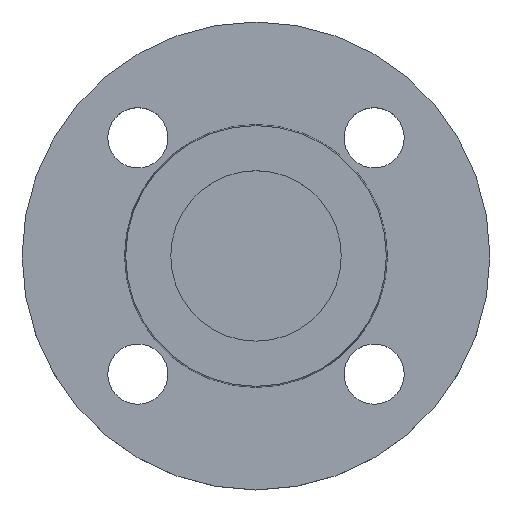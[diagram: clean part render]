
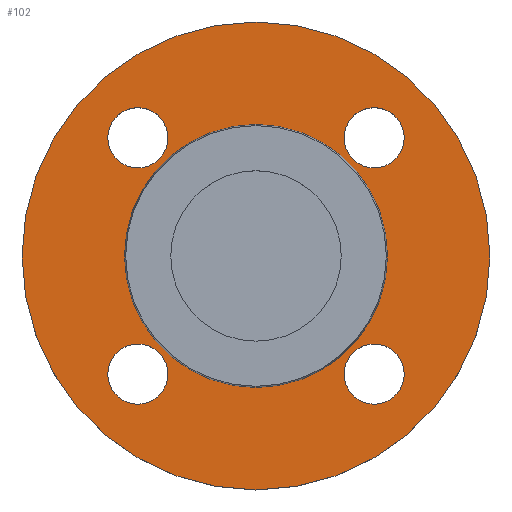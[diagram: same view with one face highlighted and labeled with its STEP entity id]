
A CAD part, top view. The second image highlights one B-rep face of the part: STEP entity #102.
In plain terms, the highlighted planar face has unit normal (0, 0, 1).
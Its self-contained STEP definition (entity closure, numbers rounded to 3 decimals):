
#4 = ORIENTED_EDGE ( 'NONE', *, *, #552, .F. ) ;
#7 = VERTEX_POINT ( 'NONE', #746 ) ;
#10 = CARTESIAN_POINT ( 'NONE',  ( 0., 0., -2. ) ) ;
#12 = ORIENTED_EDGE ( 'NONE', *, *, #420, .T. ) ;
#27 = ORIENTED_EDGE ( 'NONE', *, *, #700, .F. ) ;
#28 = DIRECTION ( 'NONE',  ( 0., 0., -1. ) ) ;
#29 = DIRECTION ( 'NONE',  ( 1., 0., 0. ) ) ;
#40 = ORIENTED_EDGE ( 'NONE', *, *, #299, .T. ) ;
#42 = DIRECTION ( 'NONE',  ( 1., 0., 0. ) ) ;
#47 = CIRCLE ( 'NONE', #456, 9. ) ;
#53 = EDGE_LOOP ( 'NONE', ( #4, #27 ) ) ;
#56 = DIRECTION ( 'NONE',  ( 0., 0., -1. ) ) ;
#66 = EDGE_CURVE ( 'NONE', #603, #597, #575, .T. ) ;
#71 = CIRCLE ( 'NONE', #545, 9. ) ;
#72 = VERTEX_POINT ( 'NONE', #384 ) ;
#73 = AXIS2_PLACEMENT_3D ( 'NONE', #723, #151, #409 ) ;
#75 = CIRCLE ( 'NONE', #521, 70. ) ;
#76 = AXIS2_PLACEMENT_3D ( 'NONE', #608, #28, #290 ) ;
#82 = DIRECTION ( 'NONE',  ( -1., 0., 0. ) ) ;
#86 = ORIENTED_EDGE ( 'NONE', *, *, #224, .T. ) ;
#96 = CARTESIAN_POINT ( 'NONE',  ( -39.353, 0., -2. ) ) ;
#102 = ADVANCED_FACE ( 'NONE', ( #188, #490, #744, #167, #428, #681 ), #108, .T. ) ;
#107 = AXIS2_PLACEMENT_3D ( 'NONE', #365, #621, #42 ) ;
#108 = PLANE ( 'NONE',  #107 ) ;
#143 = ORIENTED_EDGE ( 'NONE', *, *, #819, .T. ) ;
#144 = AXIS2_PLACEMENT_3D ( 'NONE', #502, #761, #185 ) ;
#151 = DIRECTION ( 'NONE',  ( 0., 0., -1. ) ) ;
#165 = DIRECTION ( 'NONE',  ( -1., 0., 0. ) ) ;
#167 = FACE_BOUND ( 'NONE', #352, .T. ) ;
#175 = DIRECTION ( 'NONE',  ( 0., 0., -1. ) ) ;
#180 = ORIENTED_EDGE ( 'NONE', *, *, #641, .T. ) ;
#184 = CIRCLE ( 'NONE', #651, 9. ) ;
#185 = DIRECTION ( 'NONE',  ( 1., 0., 0. ) ) ;
#188 = FACE_BOUND ( 'NONE', #619, .T. ) ;
#224 = EDGE_CURVE ( 'NONE', #72, #7, #799, .T. ) ;
#231 = CARTESIAN_POINT ( 'NONE',  ( -70., 0., -2. ) ) ;
#232 = DIRECTION ( 'NONE',  ( 1., 0., 0. ) ) ;
#234 = VERTEX_POINT ( 'NONE', #661 ) ;
#239 = DIRECTION ( 'NONE',  ( 0., 0., -1. ) ) ;
#249 = DIRECTION ( 'NONE',  ( 1., 0., 0. ) ) ;
#253 = CARTESIAN_POINT ( 'NONE',  ( 26.355, 35.355, -2. ) ) ;
#267 = DIRECTION ( 'NONE',  ( 0., 0., -1. ) ) ;
#280 = VERTEX_POINT ( 'NONE', #96 ) ;
#285 = ORIENTED_EDGE ( 'NONE', *, *, #66, .T. ) ;
#288 = EDGE_LOOP ( 'NONE', ( #12, #659 ) ) ;
#290 = DIRECTION ( 'NONE',  ( -1., 0., 0. ) ) ;
#291 = CARTESIAN_POINT ( 'NONE',  ( 39.353, 0., -2. ) ) ;
#295 = CIRCLE ( 'NONE', #762, 9. ) ;
#299 = EDGE_CURVE ( 'NONE', #280, #380, #443, .T. ) ;
#310 = AXIS2_PLACEMENT_3D ( 'NONE', #554, #807, #232 ) ;
#316 = DIRECTION ( 'NONE',  ( 1., 0., 0. ) ) ;
#329 = CIRCLE ( 'NONE', #439, 9. ) ;
#331 = EDGE_LOOP ( 'NONE', ( #697, #285 ) ) ;
#345 = VERTEX_POINT ( 'NONE', #231 ) ;
#349 = VERTEX_POINT ( 'NONE', #488 ) ;
#352 = EDGE_LOOP ( 'NONE', ( #143, #180 ) ) ;
#354 = CARTESIAN_POINT ( 'NONE',  ( 35.355, -35.355, -2. ) ) ;
#356 = CIRCLE ( 'NONE', #822, 70. ) ;
#365 = CARTESIAN_POINT ( 'NONE',  ( 39.353, 0., -2. ) ) ;
#378 = EDGE_CURVE ( 'NONE', #7, #72, #47, .T. ) ;
#380 = VERTEX_POINT ( 'NONE', #291 ) ;
#384 = CARTESIAN_POINT ( 'NONE',  ( 26.355, -35.355, -2. ) ) ;
#400 = VERTEX_POINT ( 'NONE', #803 ) ;
#402 = CARTESIAN_POINT ( 'NONE',  ( 70., 0., -2. ) ) ;
#404 = ORIENTED_EDGE ( 'NONE', *, *, #423, .T. ) ;
#409 = DIRECTION ( 'NONE',  ( 1., 0., 0. ) ) ;
#416 = AXIS2_PLACEMENT_3D ( 'NONE', #489, #742, #165 ) ;
#420 = EDGE_CURVE ( 'NONE', #234, #400, #666, .T. ) ;
#423 = EDGE_CURVE ( 'NONE', #380, #280, #776, .T. ) ;
#428 = FACE_BOUND ( 'NONE', #644, .T. ) ;
#435 = DIRECTION ( 'NONE',  ( 1., 0., 0. ) ) ;
#439 = AXIS2_PLACEMENT_3D ( 'NONE', #816, #239, #496 ) ;
#443 = CIRCLE ( 'NONE', #76, 39.353 ) ;
#456 = AXIS2_PLACEMENT_3D ( 'NONE', #354, #609, #29 ) ;
#488 = CARTESIAN_POINT ( 'NONE',  ( 44.355, 35.355, -2. ) ) ;
#489 = CARTESIAN_POINT ( 'NONE',  ( 0., 0., -2. ) ) ;
#490 = FACE_BOUND ( 'NONE', #288, .T. ) ;
#496 = DIRECTION ( 'NONE',  ( 1., 0., 0. ) ) ;
#502 = CARTESIAN_POINT ( 'NONE',  ( -35.355, 35.355, -2. ) ) ;
#513 = CARTESIAN_POINT ( 'NONE',  ( 0., 0., -2. ) ) ;
#521 = AXIS2_PLACEMENT_3D ( 'NONE', #10, #267, #523 ) ;
#523 = DIRECTION ( 'NONE',  ( -1., 0., 0. ) ) ;
#530 = CARTESIAN_POINT ( 'NONE',  ( -44.355, 35.355, -2. ) ) ;
#539 = ORIENTED_EDGE ( 'NONE', *, *, #378, .T. ) ;
#545 = AXIS2_PLACEMENT_3D ( 'NONE', #752, #175, #435 ) ;
#552 = EDGE_CURVE ( 'NONE', #693, #345, #75, .T. ) ;
#554 = CARTESIAN_POINT ( 'NONE',  ( -35.355, -35.355, -2. ) ) ;
#574 = CARTESIAN_POINT ( 'NONE',  ( 35.355, 35.355, -2. ) ) ;
#575 = CIRCLE ( 'NONE', #144, 9. ) ;
#597 = VERTEX_POINT ( 'NONE', #655 ) ;
#603 = VERTEX_POINT ( 'NONE', #530 ) ;
#608 = CARTESIAN_POINT ( 'NONE',  ( 0., 0., -2. ) ) ;
#609 = DIRECTION ( 'NONE',  ( 0., 0., -1. ) ) ;
#619 = EDGE_LOOP ( 'NONE', ( #539, #86 ) ) ;
#621 = DIRECTION ( 'NONE',  ( 0., 0., 1. ) ) ;
#633 = CARTESIAN_POINT ( 'NONE',  ( -35.355, 35.355, -2. ) ) ;
#635 = EDGE_CURVE ( 'NONE', #597, #603, #184, .T. ) ;
#641 = EDGE_CURVE ( 'NONE', #673, #349, #295, .T. ) ;
#644 = EDGE_LOOP ( 'NONE', ( #40, #404 ) ) ;
#651 = AXIS2_PLACEMENT_3D ( 'NONE', #633, #56, #316 ) ;
#655 = CARTESIAN_POINT ( 'NONE',  ( -26.355, 35.355, -2. ) ) ;
#656 = DIRECTION ( 'NONE',  ( 0., 0., -1. ) ) ;
#659 = ORIENTED_EDGE ( 'NONE', *, *, #818, .T. ) ;
#661 = CARTESIAN_POINT ( 'NONE',  ( -26.355, -35.355, -2. ) ) ;
#666 = CIRCLE ( 'NONE', #310, 9. ) ;
#673 = VERTEX_POINT ( 'NONE', #253 ) ;
#681 = FACE_OUTER_BOUND ( 'NONE', #53, .T. ) ;
#693 = VERTEX_POINT ( 'NONE', #402 ) ;
#697 = ORIENTED_EDGE ( 'NONE', *, *, #635, .T. ) ;
#700 = EDGE_CURVE ( 'NONE', #345, #693, #356, .T. ) ;
#723 = CARTESIAN_POINT ( 'NONE',  ( 35.355, -35.355, -2. ) ) ;
#742 = DIRECTION ( 'NONE',  ( 0., 0., -1. ) ) ;
#744 = FACE_BOUND ( 'NONE', #331, .T. ) ;
#746 = CARTESIAN_POINT ( 'NONE',  ( 44.355, -35.355, -2. ) ) ;
#752 = CARTESIAN_POINT ( 'NONE',  ( 35.355, 35.355, -2. ) ) ;
#761 = DIRECTION ( 'NONE',  ( 0., 0., -1. ) ) ;
#762 = AXIS2_PLACEMENT_3D ( 'NONE', #574, #826, #249 ) ;
#776 = CIRCLE ( 'NONE', #416, 39.353 ) ;
#799 = CIRCLE ( 'NONE', #73, 9. ) ;
#803 = CARTESIAN_POINT ( 'NONE',  ( -44.355, -35.355, -2. ) ) ;
#807 = DIRECTION ( 'NONE',  ( 0., 0., -1. ) ) ;
#816 = CARTESIAN_POINT ( 'NONE',  ( -35.355, -35.355, -2. ) ) ;
#818 = EDGE_CURVE ( 'NONE', #400, #234, #329, .T. ) ;
#819 = EDGE_CURVE ( 'NONE', #349, #673, #71, .T. ) ;
#822 = AXIS2_PLACEMENT_3D ( 'NONE', #513, #656, #82 ) ;
#826 = DIRECTION ( 'NONE',  ( 0., 0., -1. ) ) ;
